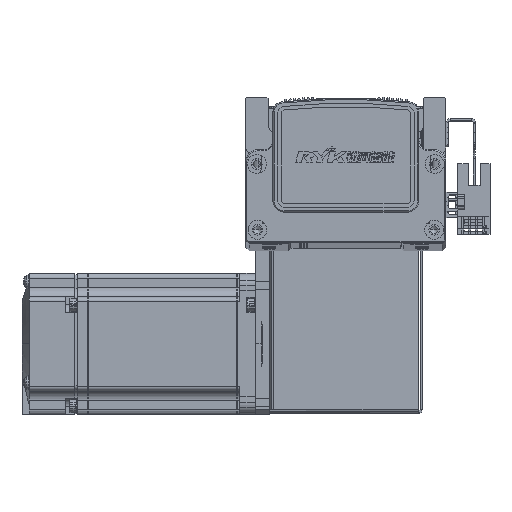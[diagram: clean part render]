
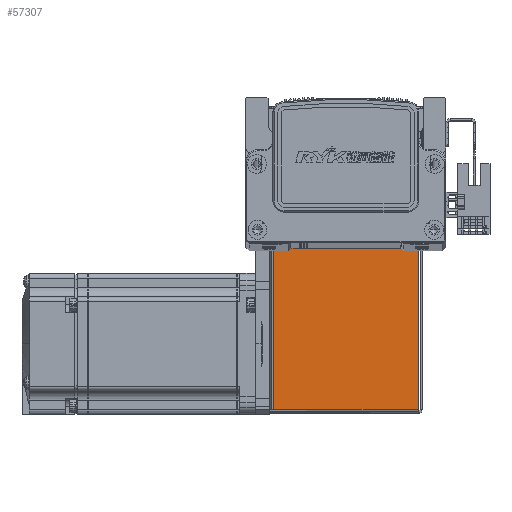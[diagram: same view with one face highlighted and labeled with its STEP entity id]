
A CAD part, top view. The second image highlights one B-rep face of the part: STEP entity #57307.
In plain terms, the highlighted planar face has unit normal (0, 0, 1) as drawn and (0, 0, -1) by its records, which use the part's own axes.
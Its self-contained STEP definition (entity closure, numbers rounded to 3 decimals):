
#11136 = AXIS2_PLACEMENT_3D ( 'NONE', #26007, #26009, #26016 ) ;
#19658 = FACE_OUTER_BOUND ( 'NONE', #21877, .T. ) ;
#20829 = VERTEX_POINT ( 'NONE', #69432 ) ;
#20854 = VERTEX_POINT ( 'NONE', #69511 ) ;
#20888 = VERTEX_POINT ( 'NONE', #69504 ) ;
#20939 = VERTEX_POINT ( 'NONE', #69582 ) ;
#21877 = EDGE_LOOP ( 'NONE', ( #25122, #25179, #25204, #25196 ) ) ;
#25122 = ORIENTED_EDGE ( 'NONE', *, *, #35959, .T. ) ;
#25179 = ORIENTED_EDGE ( 'NONE', *, *, #35721, .F. ) ;
#25196 = ORIENTED_EDGE ( 'NONE', *, *, #35927, .T. ) ;
#25204 = ORIENTED_EDGE ( 'NONE', *, *, #35871, .T. ) ;
#26004 = PLANE ( 'NONE',  #11136 ) ;
#26007 = CARTESIAN_POINT ( 'NONE',  ( 0., 0., -35. ) ) ;
#26009 = DIRECTION ( 'NONE',  ( 0., 0., 1. ) ) ;
#26016 = DIRECTION ( 'NONE',  ( 0., -1., 0. ) ) ;
#27299 = DIRECTION ( 'NONE',  ( 1., 0., 0. ) ) ;
#27322 = CARTESIAN_POINT ( 'NONE',  ( 0., 72.5, -35. ) ) ;
#27337 = DIRECTION ( 'NONE',  ( 0., -1., 0. ) ) ;
#27338 = CARTESIAN_POINT ( 'NONE',  ( 30.763, 72.5, -35. ) ) ;
#28399 = CARTESIAN_POINT ( 'NONE',  ( 32.5, 0.737, -35. ) ) ;
#28425 = DIRECTION ( 'NONE',  ( 1., 0., 0. ) ) ;
#28730 = CARTESIAN_POINT ( 'NONE',  ( -30.793, 0., -35. ) ) ;
#28761 = DIRECTION ( 'NONE',  ( 0., 1., 0. ) ) ;
#32674 = LINE ( 'NONE', #27338, #32988 ) ;
#32988 = VECTOR ( 'NONE', #27337, 1000. ) ;
#33666 = VECTOR ( 'NONE', #28425, 1000. ) ;
#33704 = LINE ( 'NONE', #28399, #33666 ) ;
#33847 = LINE ( 'NONE', #28730, #33880 ) ;
#33880 = VECTOR ( 'NONE', #28761, 1000. ) ;
#33891 = VECTOR ( 'NONE', #27299, 1000. ) ;
#33940 = LINE ( 'NONE', #27322, #33891 ) ;
#35721 = EDGE_CURVE ( 'NONE', #20829, #20854, #33704, .T. ) ;
#35871 = EDGE_CURVE ( 'NONE', #20829, #20888, #33847, .T. ) ;
#35927 = EDGE_CURVE ( 'NONE', #20888, #20939, #33940, .T. ) ;
#35959 = EDGE_CURVE ( 'NONE', #20939, #20854, #32674, .T. ) ;
#57307 = ADVANCED_FACE ( 'NONE', ( #19658 ), #26004, .F. ) ;
#69432 = CARTESIAN_POINT ( 'NONE',  ( -30.793, 0.737, -35. ) ) ;
#69504 = CARTESIAN_POINT ( 'NONE',  ( -30.793, 72.5, -35. ) ) ;
#69511 = CARTESIAN_POINT ( 'NONE',  ( 30.763, 0.737, -35. ) ) ;
#69582 = CARTESIAN_POINT ( 'NONE',  ( 30.763, 72.5, -35. ) ) ;
